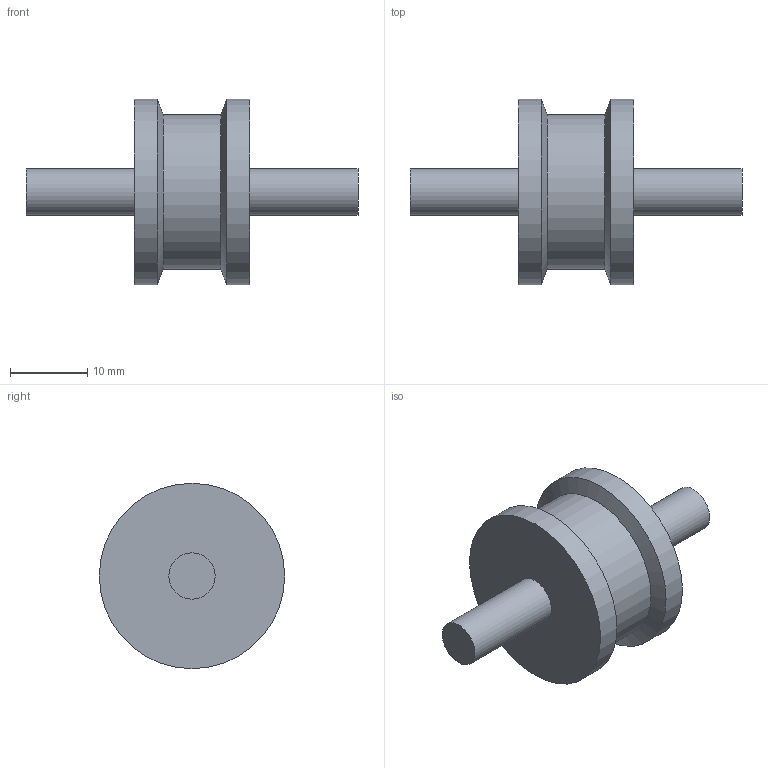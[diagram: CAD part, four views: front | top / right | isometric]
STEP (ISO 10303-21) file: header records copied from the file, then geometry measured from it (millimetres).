
FILE_DESCRIPTION(/* description */ (''),/* implementation_level */ '2;1');
FILE_NAME(/* name */ '\\NAS\db20\PR8-M6-D24-H15\DR_PR8-M6-D24-H15.stp',/* time_stamp */ '2017-09-26T09:09:20+09:00',/* author */ ('user'),/* organization */ (''),/* preprocessor_version */ 'ST-DEVELOPER v15.6',/* originating_system */ 'Autodesk Inventor 2015',/* authorisation */ '');
FILE_SCHEMA (('AUTOMOTIVE_DESIGN { 1 0 10303 214 3 1 1 }'));
Length unit declared in the file: millimetre
Products named in the file (1): DR_PR8-M6-D24-H15
Bounding box: 43 x 24 x 24 mm (x, y, z)
Volume: 6434 mm3; surface area: 2651.5 mm2
Topology: 1 solids, 1 shells, 11 faces, 17 edges, 10 vertices
Faces by surface type: cylinder 5, plane 4, cone 2
Full cylindrical faces by diameter (mm): 6 x2, 20 x1, 24 x2
Entity records: 238 total; most frequent: DIRECTION 44, CARTESIAN_POINT 32, AXIS2_PLACEMENT_3D 22, EDGE_LOOP 20, ORIENTED_EDGE 20, FACE_OUTER_BOUND 11, ADVANCED_FACE 11, CIRCLE 10
